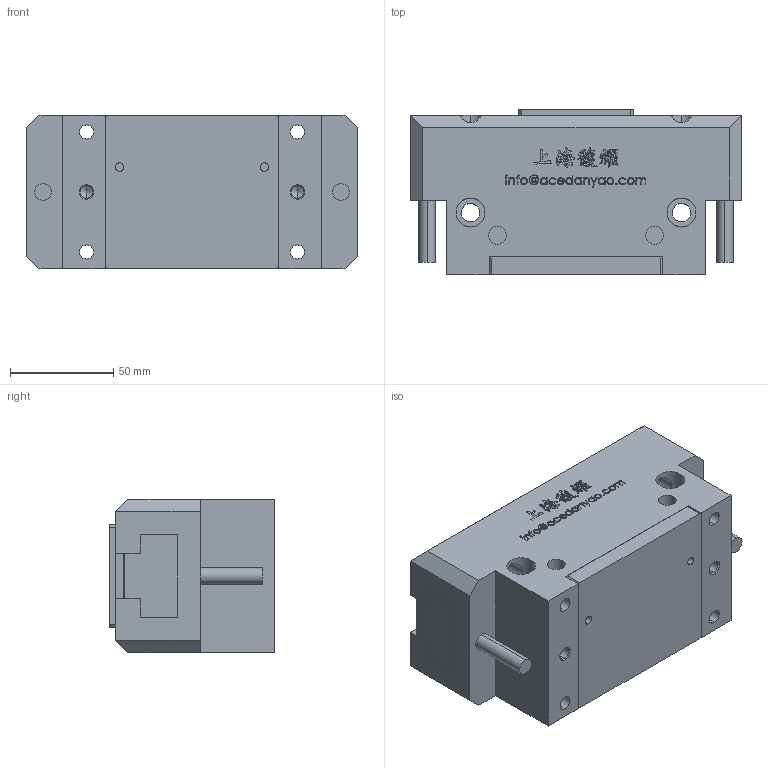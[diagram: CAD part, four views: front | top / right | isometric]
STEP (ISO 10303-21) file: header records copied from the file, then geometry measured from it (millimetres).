
FILE_DESCRIPTION (( 'STEP AP203' ), '1' );
FILE_NAME ('OPP2-160-C2-原始檔-組合-W106.04.19.STEP', '2017-04-19T03:30:42', ( 'DanyaoCAD' ), ( '' ), 'SwSTEP 2.0', 'SolidWorks 2016', '' );
FILE_SCHEMA (( 'CONFIG_CONTROL_DESIGN' ));
Length unit declared in the file: millimetre
Products named in the file (5): OPP2-160-C2-原始檔-組合-W106.04.19; Griffa; Fondello; Corpo; Coperchio
Assembly tree (5 placements, depth 2):
  OPP2-160-C2-原始檔-組合-W106.04.19
    Griffa  x2
    Fondello
    Corpo
    Coperchio
Bounding box: 160 x 80 x 74 mm (x, y, z)
Volume: 753675.7 mm3; surface area: 131412.6 mm2
Topology: 5 solids, 5 shells, 1019 faces, 2844 edges, 1882 vertices
Faces by surface type: bspline 640, plane 267, cylinder 84, cone 28
Entity records: 49015 total; most frequent: CARTESIAN_POINT 27340, ORIENTED_EDGE 5520, EDGE_CURVE 2760, DIRECTION 2328, VERTEX_POINT 1832, B_SPLINE_CURVE_WITH_KNOTS 1304, VECTOR 1280, LINE 1280
